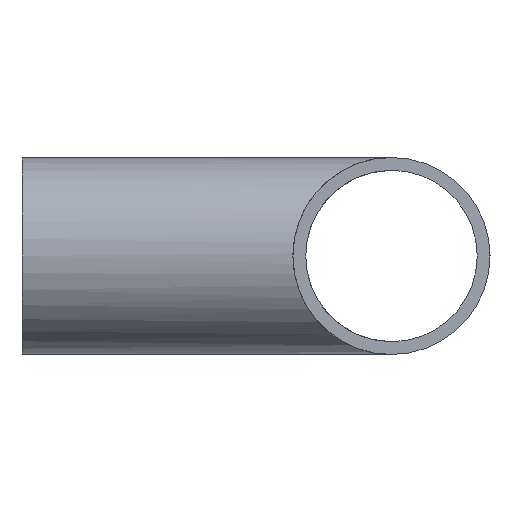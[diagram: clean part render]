
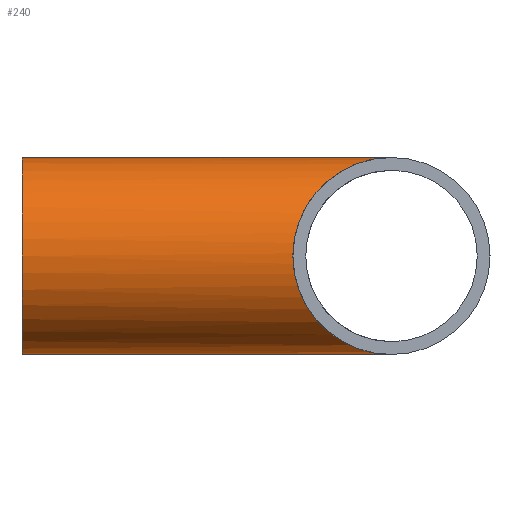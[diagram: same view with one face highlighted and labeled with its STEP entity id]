
A CAD part, left-side view. The second image highlights one B-rep face of the part: STEP entity #240.
In plain terms, the highlighted cylindrical face has radius 12.7 mm (diameter 25.4 mm), a partial arc.
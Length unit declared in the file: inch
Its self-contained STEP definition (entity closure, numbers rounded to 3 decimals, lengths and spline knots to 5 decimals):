
#2 = CARTESIAN_POINT ( 'NONE',  ( 0., 1.875, 0.5 ) ) ;
#13 = DIRECTION ( 'NONE',  ( 0., 1., 0. ) ) ;
#16 = VECTOR ( 'NONE', #135, 39.37008 ) ;
#52 = DIRECTION ( 'NONE',  ( 0., 0., -1. ) ) ;
#54 = DIRECTION ( 'NONE',  ( 0., 0., 1. ) ) ;
#68 = CIRCLE ( 'NONE', #412, 0.5 ) ;
#80 = CARTESIAN_POINT ( 'NONE',  ( 0., 0., 0.5 ) ) ;
#93 = VECTOR ( 'NONE', #169, 39.37008 ) ;
#94 = LINE ( 'NONE', #283, #16 ) ;
#124 = VERTEX_POINT ( 'NONE', #2 ) ;
#135 = DIRECTION ( 'NONE',  ( 0., -1., 0. ) ) ;
#139 = CARTESIAN_POINT ( 'NONE',  ( 0., 1.875, 0.5 ) ) ;
#149 = DIRECTION ( 'NONE',  ( 0., -1., 0. ) ) ;
#152 = CARTESIAN_POINT ( 'NONE',  ( 0., 1.875, -0.5 ) ) ;
#164 = CYLINDRICAL_SURFACE ( 'NONE', #381, 0.5 ) ;
#169 = DIRECTION ( 'NONE',  ( 0., -1., 0. ) ) ;
#173 = CARTESIAN_POINT ( 'NONE',  ( 0., 0., -0.5 ) ) ;
#175 = ORIENTED_EDGE ( 'NONE', *, *, #228, .F. ) ;
#184 = CARTESIAN_POINT ( 'NONE',  ( 0., 0., 0.5 ) ) ;
#218 = CARTESIAN_POINT ( 'NONE',  ( -1., 1., 0.5 ) ) ;
#228 = EDGE_CURVE ( 'NONE', #257, #124, #68, .T. ) ;
#240 = ADVANCED_FACE ( 'NONE', ( #409 ), #164, .T. ) ;
#244 =( BOUNDED_CURVE ( )  B_SPLINE_CURVE ( 3, ( #173, #247, #218, #80 ),
 .UNSPECIFIED., .F., .T. ) 
 B_SPLINE_CURVE_WITH_KNOTS ( ( 4, 4 ),
 ( 1.5708, 4.71239 ),
 .UNSPECIFIED. ) 
 CURVE ( )  GEOMETRIC_REPRESENTATION_ITEM ( )  RATIONAL_B_SPLINE_CURVE ( ( 1., 0.333, 0.333, 1. ) ) 
 REPRESENTATION_ITEM ( '' )  );
#246 = EDGE_CURVE ( 'NONE', #399, #251, #244, .T. ) ;
#247 = CARTESIAN_POINT ( 'NONE',  ( -1., 1., -0.5 ) ) ;
#251 = VERTEX_POINT ( 'NONE', #184 ) ;
#257 = VERTEX_POINT ( 'NONE', #152 ) ;
#259 = ORIENTED_EDGE ( 'NONE', *, *, #342, .F. ) ;
#280 = ORIENTED_EDGE ( 'NONE', *, *, #246, .T. ) ;
#283 = CARTESIAN_POINT ( 'NONE',  ( 0., 1.875, -0.5 ) ) ;
#298 = EDGE_LOOP ( 'NONE', ( #259, #175, #353, #280 ) ) ;
#300 = CARTESIAN_POINT ( 'NONE',  ( 0., 1.875, 0. ) ) ;
#342 = EDGE_CURVE ( 'NONE', #124, #251, #419, .T. ) ;
#353 = ORIENTED_EDGE ( 'NONE', *, *, #365, .T. ) ;
#365 = EDGE_CURVE ( 'NONE', #257, #399, #94, .T. ) ;
#381 = AXIS2_PLACEMENT_3D ( 'NONE', #437, #149, #52 ) ;
#399 = VERTEX_POINT ( 'NONE', #411 ) ;
#409 = FACE_OUTER_BOUND ( 'NONE', #298, .T. ) ;
#411 = CARTESIAN_POINT ( 'NONE',  ( 0., 0., -0.5 ) ) ;
#412 = AXIS2_PLACEMENT_3D ( 'NONE', #300, #13, #54 ) ;
#419 = LINE ( 'NONE', #139, #93 ) ;
#437 = CARTESIAN_POINT ( 'NONE',  ( 0., 1.875, 0. ) ) ;
